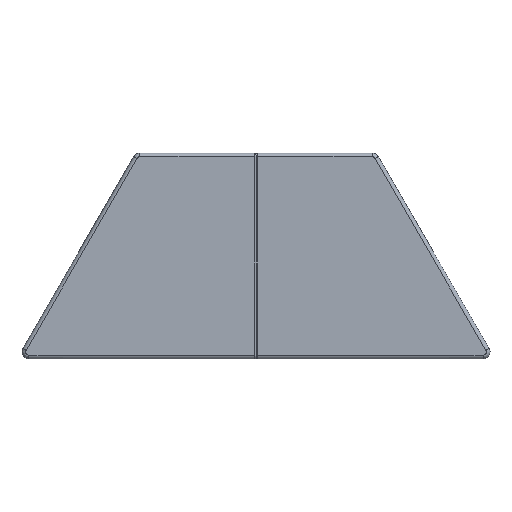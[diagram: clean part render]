
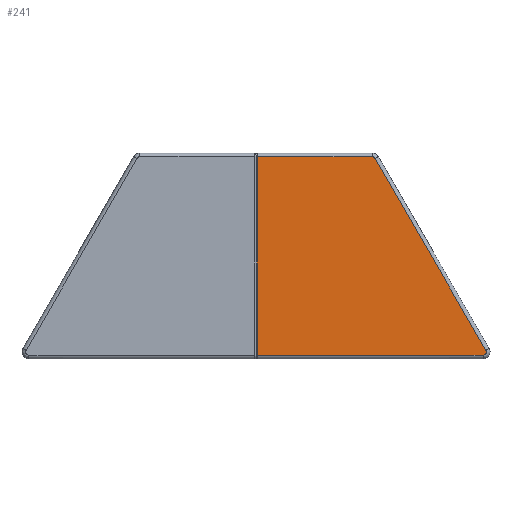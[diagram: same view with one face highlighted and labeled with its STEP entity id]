
A CAD part, top view. The second image highlights one B-rep face of the part: STEP entity #241.
In plain terms, the highlighted planar face has unit normal (0, 0, 1).
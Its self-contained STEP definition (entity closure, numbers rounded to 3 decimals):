
#13=B_SPLINE_CURVE_WITH_KNOTS('',1,(#4590,#4591),.UNSPECIFIED.,.F.,.F.,
(2,2),(8.,433.933),.UNSPECIFIED.);
#241=ADVANCED_FACE('',(#413),#2137,.T.);
#413=FACE_OUTER_BOUND('',#597,.T.);
#597=EDGE_LOOP('',(#902,#903,#904,#905,#906,#907));
#902=ORIENTED_EDGE('',*,*,#1453,.F.);
#903=ORIENTED_EDGE('',*,*,#1442,.F.);
#904=ORIENTED_EDGE('',*,*,#1434,.F.);
#905=ORIENTED_EDGE('',*,*,#1446,.F.);
#906=ORIENTED_EDGE('',*,*,#1452,.F.);
#907=ORIENTED_EDGE('',*,*,#1449,.F.);
#1434=EDGE_CURVE('',#1983,#1980,#13,.T.);
#1442=EDGE_CURVE('',#1980,#1981,#1740,.T.);
#1446=EDGE_CURVE('',#1982,#1983,#1744,.T.);
#1449=EDGE_CURVE('',#1978,#1979,#1747,.T.);
#1452=EDGE_CURVE('',#1979,#1982,#1750,.T.);
#1453=EDGE_CURVE('',#1981,#1978,#1751,.T.);
#1740=(
BOUNDED_CURVE()
B_SPLINE_CURVE(1,(#4608,#4609),.UNSPECIFIED.,.F.,.F.)
B_SPLINE_CURVE_WITH_KNOTS((2,2),(0.,246.49),
 .UNSPECIFIED.)
CURVE()
GEOMETRIC_REPRESENTATION_ITEM()
RATIONAL_B_SPLINE_CURVE((1.,1.))
REPRESENTATION_ITEM('')
);
#1744=(
BOUNDED_CURVE()
B_SPLINE_CURVE(1,(#4619,#4620),.UNSPECIFIED.,.F.,.F.)
B_SPLINE_CURVE_WITH_KNOTS((2,2),(0.,484.319),
 .UNSPECIFIED.)
CURVE()
GEOMETRIC_REPRESENTATION_ITEM()
RATIONAL_B_SPLINE_CURVE((1.,1.))
REPRESENTATION_ITEM('')
);
#1747=(
BOUNDED_CURVE()
B_SPLINE_CURVE(1,(#4627,#4628),.UNSPECIFIED.,.F.,.F.)
B_SPLINE_CURVE_WITH_KNOTS((2,2),(0.,475.659),
 .UNSPECIFIED.)
CURVE()
GEOMETRIC_REPRESENTATION_ITEM()
RATIONAL_B_SPLINE_CURVE((1.,1.))
REPRESENTATION_ITEM('')
);
#1750=(
BOUNDED_CURVE()
B_SPLINE_CURVE(2,(#4634,#4635,#4636,#4637,#4638),.UNSPECIFIED.,.F.,.F.)
B_SPLINE_CURVE_WITH_KNOTS((3,2,3),(0.,7.33,
14.661),.UNSPECIFIED.)
CURVE()
GEOMETRIC_REPRESENTATION_ITEM()
RATIONAL_B_SPLINE_CURVE((1.,0.866,1.,0.866,1.))
REPRESENTATION_ITEM('')
);
#1751=(
BOUNDED_CURVE()
B_SPLINE_CURVE(2,(#4639,#4640,#4641),.UNSPECIFIED.,.F.,.F.)
B_SPLINE_CURVE_WITH_KNOTS((3,3),(0.,7.33),
 .UNSPECIFIED.)
CURVE()
GEOMETRIC_REPRESENTATION_ITEM()
RATIONAL_B_SPLINE_CURVE((1.,0.866,1.))
REPRESENTATION_ITEM('')
);
#1978=VERTEX_POINT('',#4460);
#1979=VERTEX_POINT('',#4461);
#1980=VERTEX_POINT('',#4462);
#1981=VERTEX_POINT('',#4463);
#1982=VERTEX_POINT('',#4464);
#1983=VERTEX_POINT('',#4465);
#2137=PLANE('',#2329);
#2329=AXIS2_PLACEMENT_3D('',#3559,#2404,$);
#2404=DIRECTION('',(0.,0.,1.));
#3559=CARTESIAN_POINT('',(-634.694,276.208,400.));
#4460=CARTESIAN_POINT('',(255.733,209.466,400.));
#4461=CARTESIAN_POINT('',(493.562,-202.466,400.));
#4462=CARTESIAN_POINT('',(3.181,212.966,400.));
#4463=CARTESIAN_POINT('',(249.671,212.966,400.));
#4464=CARTESIAN_POINT('',(487.5,-212.966,400.));
#4465=CARTESIAN_POINT('',(3.181,-212.966,400.));
#4590=CARTESIAN_POINT('',(3.181,-212.966,400.));
#4591=CARTESIAN_POINT('',(3.181,212.966,400.));
#4608=CARTESIAN_POINT('',(3.181,212.966,400.));
#4609=CARTESIAN_POINT('',(249.671,212.966,400.));
#4619=CARTESIAN_POINT('',(487.5,-212.966,400.));
#4620=CARTESIAN_POINT('',(3.181,-212.966,400.));
#4627=CARTESIAN_POINT('',(255.733,209.466,400.));
#4628=CARTESIAN_POINT('',(493.562,-202.466,400.));
#4634=CARTESIAN_POINT('',(493.562,-202.466,400.));
#4635=CARTESIAN_POINT('',(495.583,-205.966,400.));
#4636=CARTESIAN_POINT('',(493.562,-209.466,400.));
#4637=CARTESIAN_POINT('',(491.541,-212.966,400.));
#4638=CARTESIAN_POINT('',(487.5,-212.966,400.));
#4639=CARTESIAN_POINT('',(249.671,212.966,400.));
#4640=CARTESIAN_POINT('',(253.712,212.966,400.));
#4641=CARTESIAN_POINT('',(255.733,209.466,400.));
